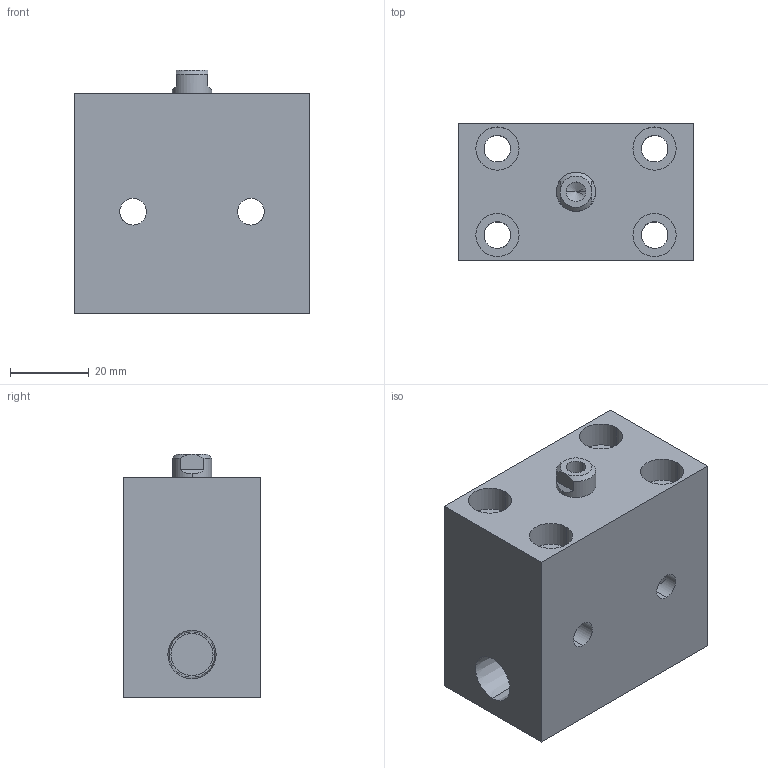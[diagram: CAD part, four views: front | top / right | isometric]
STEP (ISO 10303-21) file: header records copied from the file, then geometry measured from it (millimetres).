
FILE_DESCRIPTION (( 'STEP AP203' ), '1' );
FILE_NAME ('HBC-16-S-8N装配体.STEP', '2019-11-29T08:52:30', ( '微软用户' ), ( '微软中国' ), 'SwSTEP 2.0', 'SolidWorks 2012', '' );
FILE_SCHEMA (( 'CONFIG_CONTROL_DESIGN' ));
Length unit declared in the file: millimetre
Products named in the file (3): HBC-16-S-8N掛极; HBC-16-S-8N活塞杆; HBC-16-S-8N蚾饜极
Assembly tree (2 placements, depth 2):
  HBC-16-S-8N蚾饜极
    HBC-16-S-8N掛极
    HBC-16-S-8N活塞杆
Bounding box: 60 x 35 x 62 mm (x, y, z)
Volume: 104099.7 mm3; surface area: 23048.1 mm2
Topology: 2 solids, 2 shells, 53 faces, 134 edges, 87 vertices
Faces by surface type: cylinder 28, plane 19, cone 6
Entity records: 2225 total; most frequent: CARTESIAN_POINT 589, DIRECTION 294, ORIENTED_EDGE 264, EDGE_CURVE 132, AXIS2_PLACEMENT_3D 120, VERTEX_POINT 87, EDGE_LOOP 77, CIRCLE 62
